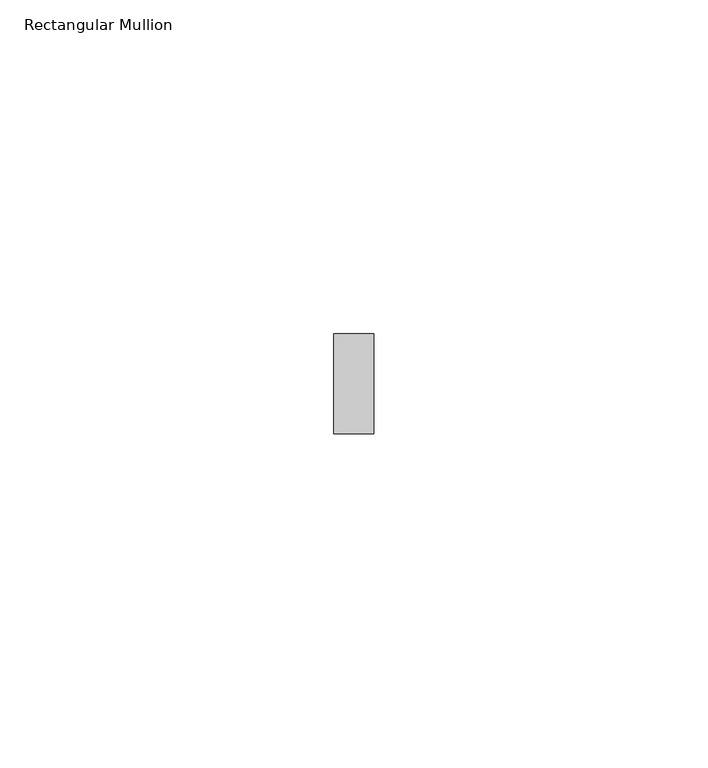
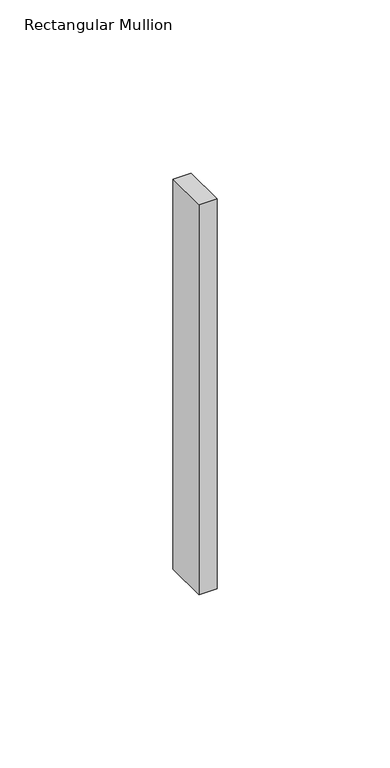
"""IFC4 building model written with IfcOpenShell, lengths in millimetres: member geometry, Rectangular Mullion : ARQ_HERR_15X6mm."""

import ifcopenshell
import ifcopenshell.guid

model = None  # the IFC model being written
_history = None  # IfcOwnerHistory: only IFC2X3 demands one
_inside = {}  # id of a spatial element -> (the spatial element, [elements in it])
_under = {}  # id of a project, library or spatial element -> (it, [spatial elements below it])
_declared = {}  # id of a project -> (the project, [libraries it declares])
_typed = {}  # id of a type object -> (the type object, [elements of that type])
_made_of = {}  # id of a material, layer set ... -> (it, [elements and type objects made of it])


def new_model(schema):
    """Start an empty IFC model of exactly this schema.

    Asked for "IFC4X3", IfcOpenShell would pick the latest addendum, in which some entities
    have other attributes; the version numbers below select the first issue.
    IFC2X3 requires an IfcOwnerHistory on every rooted entity: one is made here for all.
    """
    global model, _history
    if schema == "IFC4X3":
        model = ifcopenshell.file(schema_version=(4, 3, 0, 0))
    else:
        model = ifcopenshell.file(schema=schema)
    _inside.clear()
    _under.clear()
    _declared.clear()
    _typed.clear()
    _made_of.clear()
    _history = None
    if model.schema == "IFC2X3":
        org = make("IfcOrganization", Name="unknown")
        user = make(
            "IfcPersonAndOrganization",
            ThePerson=make("IfcPerson", FamilyName="unknown"),
            TheOrganization=org,
        )
        app = make(
            "IfcApplication",
            ApplicationDeveloper=org,
            Version="unknown",
            ApplicationFullName="unknown",
            ApplicationIdentifier="unknown",
        )
        _history = make(
            "IfcOwnerHistory",
            OwningUser=user,
            OwningApplication=app,
            ChangeAction="ADDED",
            CreationDate=0,
        )
    return model


def make(cls, **values):
    """One entity of the class cls with the attributes given. An attribute that is None is left unset."""
    return model.create_entity(
        cls, **{name: value for name, value in values.items() if value is not None}
    )


def rooted(cls, **values):
    """An entity with a GlobalId (a new one), such as an element, a storey or a relation."""
    return make(cls, GlobalId=ifcopenshell.guid.new(), OwnerHistory=_history, **values)


def si_unit(unit_type, name, prefix=None):
    """IfcSIUnit, for example si_unit("LENGTHUNIT", "METRE", prefix="MILLI")."""
    return make("IfcSIUnit", UnitType=unit_type, Prefix=prefix, Name=name)


def assignment(units):
    """IfcUnitAssignment: the units of a project."""
    return None if units is None else make("IfcUnitAssignment", Units=units)


def point(xyz):
    """IfcCartesianPoint."""
    return None if xyz is None else make("IfcCartesianPoint", Coordinates=xyz)


def direction(xyz):
    """IfcDirection."""
    return None if xyz is None else make("IfcDirection", DirectionRatios=xyz)


def frame(location, z_axis=None, x_axis=None):
    """IfcAxis2Placement3D, a coordinate frame: its origin and axes. An axis left out is left unset."""
    return make(
        "IfcAxis2Placement3D",
        Location=point(location),
        Axis=direction(z_axis),
        RefDirection=direction(x_axis),
    )


def origin():
    """The frame at (0, 0, 0) with its axes left unset."""
    return frame((0.0, 0.0, 0.0))


def place(relative_to, where):
    """IfcLocalPlacement: puts the frame where relative to a parent placement (None: the world)."""
    return make(
        "IfcLocalPlacement", PlacementRelTo=relative_to, RelativePlacement=where
    )


def context(
    kind, dimensions, precision=None, world=None, true_north=None, identifier=None
):
    """IfcGeometricRepresentationContext, for example the 3D "Model" context."""
    return make(
        "IfcGeometricRepresentationContext",
        ContextIdentifier=identifier,
        ContextType=kind,
        CoordinateSpaceDimension=dimensions,
        Precision=precision,
        WorldCoordinateSystem=world,
        TrueNorth=true_north,
    )


def project(units=None, contexts=None):
    """IfcProject with its units and contexts."""
    return rooted(
        "IfcProject",
        Name="project",
        RepresentationContexts=contexts,
        UnitsInContext=assignment(units),
    )


def spatial(cls, under=None, at=None, **own):
    """A site, building, storey or space (cls), placed at a placement, below another one or the project."""
    s = rooted(cls, ObjectPlacement=at, **own)
    if under is not None:
        _under.setdefault(under.id(), (under, []))[1].append(s)
    return s


def polyline(points):
    """IfcPolyline through the points."""
    return make("IfcPolyline", Points=[point(p) for p in points])


def outline(outer, holes=None, kind="AREA"):
    """IfcArbitraryClosedProfileDef: a profile drawn as a closed curve; with holes, ...WithVoids."""
    if holes is None:
        return make("IfcArbitraryClosedProfileDef", ProfileType=kind, OuterCurve=outer)
    return make(
        "IfcArbitraryProfileDefWithVoids",
        ProfileType=kind,
        OuterCurve=outer,
        InnerCurves=holes,
    )


def extrude(swept, where, along, depth):
    """IfcExtrudedAreaSolid: the profile swept, set in the frame where, extruded along a direction by depth."""
    return make(
        "IfcExtrudedAreaSolid",
        SweptArea=swept,
        Position=where,
        ExtrudedDirection=direction(along),
        Depth=depth,
    )


def shape(context_of_items, identifier, shape_type, items):
    """IfcShapeRepresentation: the items that make up one representation, for example the "Body"."""
    return make(
        "IfcShapeRepresentation",
        ContextOfItems=context_of_items,
        RepresentationIdentifier=identifier,
        RepresentationType=shape_type,
        Items=items,
    )


def source(mapping_origin, context_of_items, identifier, shape_type, items):
    """IfcRepresentationMap: a shape defined once, which mapped items show again and again."""
    return make(
        "IfcRepresentationMap",
        MappingOrigin=mapping_origin,
        MappedRepresentation=shape(context_of_items, identifier, shape_type, items),
    )


def transform(
    local_origin,
    x_axis=None,
    y_axis=None,
    z_axis=None,
    scale=None,
    scale2=None,
    scale3=None,
    uniform=True,
):
    """IfcCartesianTransformationOperator3D, or its non-uniform kind. x_axis, y_axis, z_axis: its Axis1, 2, 3."""
    if uniform:
        return make(
            "IfcCartesianTransformationOperator3D",
            Axis1=direction(x_axis),
            Axis2=direction(y_axis),
            LocalOrigin=point(local_origin),
            Scale=scale,
            Axis3=direction(z_axis),
        )
    return make(
        "IfcCartesianTransformationOperator3DnonUniform",
        Axis1=direction(x_axis),
        Axis2=direction(y_axis),
        LocalOrigin=point(local_origin),
        Scale=scale,
        Axis3=direction(z_axis),
        Scale2=scale2,
        Scale3=scale3,
    )


def mapped(mapping_source, mapping_target):
    """IfcMappedItem: shows the shape of a source again, moved by a transform."""
    return make(
        "IfcMappedItem", MappingSource=mapping_source, MappingTarget=mapping_target
    )


def made_of(thing, what):
    """Note that an element or type object is made of a material, layer set ...; save() writes the relation."""
    if what is not None:
        _made_of.setdefault(what.id(), (what, []))[1].append(thing)
    return thing


def element(
    cls,
    number,
    at=None,
    inside=None,
    cuts=None,
    type_object=None,
    material=None,
    context=None,
    identifier="Body",
    shape_type=None,
    held_by="IfcProductDefinitionShape",
    body=None,
    shapes=None,
    **own,
):
    """One element of the class cls, such as IfcWall. Its Tag is "e" and its number.

    at: its placement. inside: the storey or other place that contains it. cuts: it is an
    opening in that element (IfcRelVoidsElement). A single representation is given by context,
    identifier, shape_type and body (its items); several are given by shapes. held_by: the class
    of the entity that holds the representations. save() writes the other relations.
    """
    e = rooted(cls, Tag="e%d" % number, ObjectPlacement=at, **own)
    if body is not None:
        shapes = [shape(context, identifier, shape_type, body)]
    if shapes is not None:
        e.Representation = make(held_by, Representations=shapes)
    if inside is not None:
        _inside.setdefault(inside.id(), (inside, []))[1].append(e)
    if cuts is not None:
        rooted(
            "IfcRelVoidsElement", RelatingBuildingElement=cuts, RelatedOpeningElement=e
        )
    if type_object is not None:
        _typed.setdefault(type_object.id(), (type_object, []))[1].append(e)
    return made_of(e, material)


def aggregate(whole, parts):
    """IfcRelAggregates: a whole, such as a stair, and the parts it consists of."""
    return rooted("IfcRelAggregates", RelatingObject=whole, RelatedObjects=parts)


def save(model, path):
    """Write the relations noted so far, then the file.

    IfcRelAggregates (storeys below a building ...), IfcRelContainedInSpatialStructure (elements
    in a storey), IfcRelDefinesByType, IfcRelAssociatesMaterial and IfcRelDeclares: one each for
    every whole, place, type object, material and project.
    """
    for whole, parts in _under.values():
        aggregate(whole, parts)
    for where, things in _inside.values():
        rooted(
            "IfcRelContainedInSpatialStructure",
            RelatedElements=things,
            RelatingStructure=where,
        )
    for kind, things in _typed.values():
        rooted("IfcRelDefinesByType", RelatedObjects=things, RelatingType=kind)
    for what, things in _made_of.values():
        rooted("IfcRelAssociatesMaterial", RelatedObjects=things, RelatingMaterial=what)
    for by, libraries in _declared.values():
        rooted("IfcRelDeclares", RelatingContext=by, RelatedDefinitions=libraries)
    model.write(path)


def rectangular_mullion_3ce97fec(model_context):
    return source(origin(), model_context, "Body", "SweptSolid", [
        extrude(outline(polyline([(0.0, 7.5), (0.0, -7.5), (-6.0, -7.5), (-6.0, 7.5), (0.0, 7.5)])), frame((0.0, 0.0, -137.5), z_axis=(0.0, 0.0, 1.0), x_axis=(1.0, 0.0, 0.0)), (0.0, 0.0, 1.0), 137.5),
    ])


if __name__ == "__main__":
    model = new_model("IFC4")
    model_context = context("Model", 3, world=origin())
    ifc_project = project(units=[si_unit("LENGTHUNIT", "METRE", prefix="MILLI")], contexts=[model_context])
    site = spatial("IfcSite", under=ifc_project)
    building = spatial("IfcBuilding", under=site)
    placement = place(None, origin())
    rectangular_mullion_shape = rectangular_mullion_3ce97fec(model_context)
    element("IfcMember", 1, ObjectType="Rectangular Mullion : ARQ_HERR_15X6mm", at=placement, inside=building, context=model_context, shape_type="MappedRepresentation", body=[
        mapped(rectangular_mullion_shape, transform((0.0, 0.0, 0.0), x_axis=(1.0, 0.0, 0.0), y_axis=(0.0, 1.0, 0.0), z_axis=(0.0, 0.0, 1.0))),
    ])
    save(model, "model.ifc")
